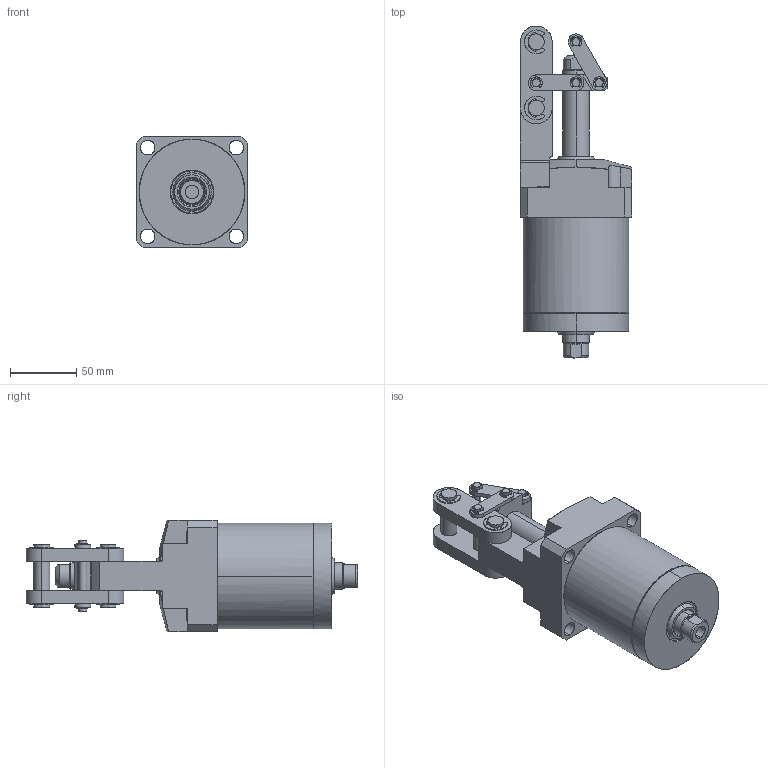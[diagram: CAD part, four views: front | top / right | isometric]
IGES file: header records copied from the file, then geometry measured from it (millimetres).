
Start section: Comment
Global section: file name: JLF5H52-50KD.igs; native system:  By Spatial Corp.; preprocessor: XPlus GENERIC/IGES 3.0; author: Author; organization: Title; date: 20080526.114753; units: millimetre
Bounding box: 84 x 250.99 x 84 mm (x, y, z)
Surface area: 124064.8 mm2 (no closed solid volume)
Topology: 0 solids, 0 shells, 567 faces, 2978 edges, 2972 vertices
Faces by surface type: bspline 567
